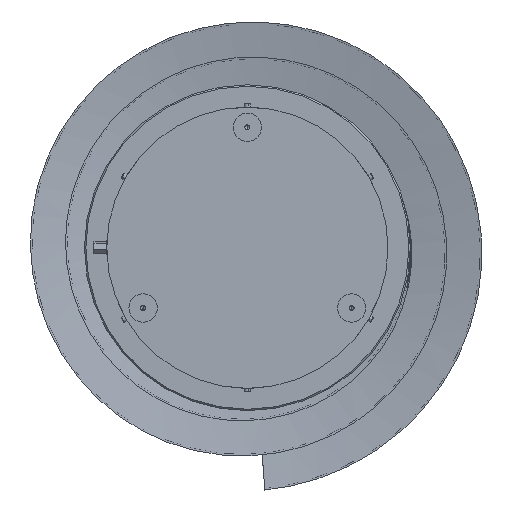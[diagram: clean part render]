
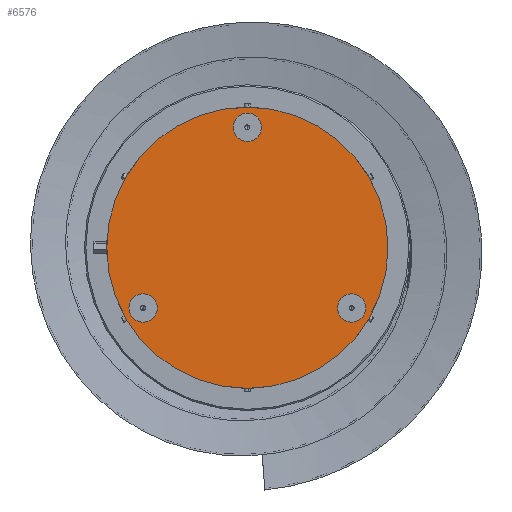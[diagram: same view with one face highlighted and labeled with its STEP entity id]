
A CAD part, front view. The second image highlights one B-rep face of the part: STEP entity #6576.
In plain terms, the highlighted planar face has unit normal (0, -1, 0).
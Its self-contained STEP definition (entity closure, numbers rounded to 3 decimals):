
#348 = EDGE_LOOP ( 'NONE', ( #2315, #10016 ) ) ;
#1088 = EDGE_CURVE ( 'NONE', #1956, #6558, #5693, .T. ) ;
#1101 = AXIS2_PLACEMENT_3D ( 'NONE', #8818, #2153, #14353 ) ;
#1122 = CIRCLE ( 'NONE', #7262, 198.5 ) ;
#1686 = CARTESIAN_POINT ( 'NONE',  ( 0., 0., 198.5 ) ) ;
#1837 = VERTEX_POINT ( 'NONE', #14181 ) ;
#1956 = VERTEX_POINT ( 'NONE', #9782 ) ;
#2153 = DIRECTION ( 'NONE',  ( 0., -1., 0. ) ) ;
#2315 = ORIENTED_EDGE ( 'NONE', *, *, #8370, .F. ) ;
#2528 = ORIENTED_EDGE ( 'NONE', *, *, #12674, .F. ) ;
#2560 = CIRCLE ( 'NONE', #2885, 20. ) ;
#2713 = CARTESIAN_POINT ( 'NONE',  ( 0., 0., 0. ) ) ;
#2749 = FACE_BOUND ( 'NONE', #12171, .T. ) ;
#2764 = EDGE_LOOP ( 'NONE', ( #5481, #2975 ) ) ;
#2885 = AXIS2_PLACEMENT_3D ( 'NONE', #12493, #11350, #10204 ) ;
#2975 = ORIENTED_EDGE ( 'NONE', *, *, #13983, .F. ) ;
#3042 = CIRCLE ( 'NONE', #11844, 20. ) ;
#3215 = AXIS2_PLACEMENT_3D ( 'NONE', #8773, #14296, #12094 ) ;
#3430 = ORIENTED_EDGE ( 'NONE', *, *, #10014, .T. ) ;
#3608 = CARTESIAN_POINT ( 'NONE',  ( 0., 0., -198.5 ) ) ;
#4020 = AXIS2_PLACEMENT_3D ( 'NONE', #2713, #4819, #4918 ) ;
#4488 = VERTEX_POINT ( 'NONE', #10294 ) ;
#4522 = ORIENTED_EDGE ( 'NONE', *, *, #11953, .F. ) ;
#4643 = CARTESIAN_POINT ( 'NONE',  ( 0., 0., 0. ) ) ;
#4746 = AXIS2_PLACEMENT_3D ( 'NONE', #9322, #6417, #13756 ) ;
#4819 = DIRECTION ( 'NONE',  ( 0., -1., 0. ) ) ;
#4918 = DIRECTION ( 'NONE',  ( 0., 0., -1. ) ) ;
#5353 = CARTESIAN_POINT ( 'NONE',  ( -147.224, 0., -105. ) ) ;
#5481 = ORIENTED_EDGE ( 'NONE', *, *, #7142, .F. ) ;
#5535 = CARTESIAN_POINT ( 'NONE',  ( 0., 0., 170. ) ) ;
#5693 = CIRCLE ( 'NONE', #4746, 20. ) ;
#5904 = CIRCLE ( 'NONE', #4020, 198.5 ) ;
#6417 = DIRECTION ( 'NONE',  ( 0., -1., 0. ) ) ;
#6491 = VERTEX_POINT ( 'NONE', #3608 ) ;
#6558 = VERTEX_POINT ( 'NONE', #11375 ) ;
#6576 = ADVANCED_FACE ( 'NONE', ( #2749, #14160, #8295, #10566 ), #9415, .F. ) ;
#6721 = DIRECTION ( 'NONE',  ( 0., 0., 1. ) ) ;
#6757 = DIRECTION ( 'NONE',  ( 0., -1., 0. ) ) ;
#7039 = DIRECTION ( 'NONE',  ( 0., 1., 0. ) ) ;
#7142 = EDGE_CURVE ( 'NONE', #1837, #8338, #2560, .T. ) ;
#7262 = AXIS2_PLACEMENT_3D ( 'NONE', #4643, #6757, #9043 ) ;
#7431 = CARTESIAN_POINT ( 'NONE',  ( 147.224, 0., -105. ) ) ;
#8140 = CIRCLE ( 'NONE', #12681, 20. ) ;
#8169 = CIRCLE ( 'NONE', #1101, 20. ) ;
#8170 = DIRECTION ( 'NONE',  ( 0., 0., 1. ) ) ;
#8219 = ORIENTED_EDGE ( 'NONE', *, *, #10632, .T. ) ;
#8295 = FACE_BOUND ( 'NONE', #348, .T. ) ;
#8338 = VERTEX_POINT ( 'NONE', #5353 ) ;
#8363 = EDGE_LOOP ( 'NONE', ( #8219, #3430 ) ) ;
#8370 = EDGE_CURVE ( 'NONE', #6558, #1956, #3042, .T. ) ;
#8773 = CARTESIAN_POINT ( 'NONE',  ( 147.224, 0., -85. ) ) ;
#8818 = CARTESIAN_POINT ( 'NONE',  ( 147.224, 0., -85. ) ) ;
#9010 = DIRECTION ( 'NONE',  ( 0., -1., 0. ) ) ;
#9043 = DIRECTION ( 'NONE',  ( 0., 0., -1. ) ) ;
#9322 = CARTESIAN_POINT ( 'NONE',  ( 0., 0., 170. ) ) ;
#9415 = PLANE ( 'NONE',  #11421 ) ;
#9782 = CARTESIAN_POINT ( 'NONE',  ( 0., 0., 150. ) ) ;
#10014 = EDGE_CURVE ( 'NONE', #10961, #6491, #5904, .T. ) ;
#10016 = ORIENTED_EDGE ( 'NONE', *, *, #1088, .F. ) ;
#10204 = DIRECTION ( 'NONE',  ( 0., 0., 1. ) ) ;
#10294 = CARTESIAN_POINT ( 'NONE',  ( 147.224, 0., -65. ) ) ;
#10566 = FACE_OUTER_BOUND ( 'NONE', #8363, .T. ) ;
#10632 = EDGE_CURVE ( 'NONE', #6491, #10961, #1122, .T. ) ;
#10961 = VERTEX_POINT ( 'NONE', #1686 ) ;
#11350 = DIRECTION ( 'NONE',  ( 0., -1., 0. ) ) ;
#11375 = CARTESIAN_POINT ( 'NONE',  ( 0., 0., 190. ) ) ;
#11421 = AXIS2_PLACEMENT_3D ( 'NONE', #12474, #7039, #8170 ) ;
#11509 = CARTESIAN_POINT ( 'NONE',  ( -147.224, 0., -85. ) ) ;
#11693 = DIRECTION ( 'NONE',  ( 0., -1., 0. ) ) ;
#11844 = AXIS2_PLACEMENT_3D ( 'NONE', #5535, #9010, #6721 ) ;
#11953 = EDGE_CURVE ( 'NONE', #4488, #13643, #13721, .T. ) ;
#12094 = DIRECTION ( 'NONE',  ( 0., 0., 1. ) ) ;
#12171 = EDGE_LOOP ( 'NONE', ( #4522, #2528 ) ) ;
#12474 = CARTESIAN_POINT ( 'NONE',  ( 0., 0., 0. ) ) ;
#12493 = CARTESIAN_POINT ( 'NONE',  ( -147.224, 0., -85. ) ) ;
#12674 = EDGE_CURVE ( 'NONE', #13643, #4488, #8169, .T. ) ;
#12681 = AXIS2_PLACEMENT_3D ( 'NONE', #11509, #11693, #13772 ) ;
#13643 = VERTEX_POINT ( 'NONE', #7431 ) ;
#13721 = CIRCLE ( 'NONE', #3215, 20. ) ;
#13756 = DIRECTION ( 'NONE',  ( 0., 0., 1. ) ) ;
#13772 = DIRECTION ( 'NONE',  ( 0., 0., 1. ) ) ;
#13983 = EDGE_CURVE ( 'NONE', #8338, #1837, #8140, .T. ) ;
#14160 = FACE_BOUND ( 'NONE', #2764, .T. ) ;
#14181 = CARTESIAN_POINT ( 'NONE',  ( -147.224, 0., -65. ) ) ;
#14296 = DIRECTION ( 'NONE',  ( 0., -1., 0. ) ) ;
#14353 = DIRECTION ( 'NONE',  ( 0., 0., 1. ) ) ;
